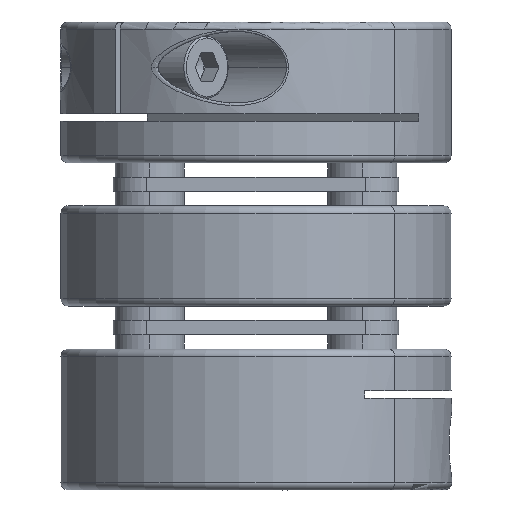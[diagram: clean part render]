
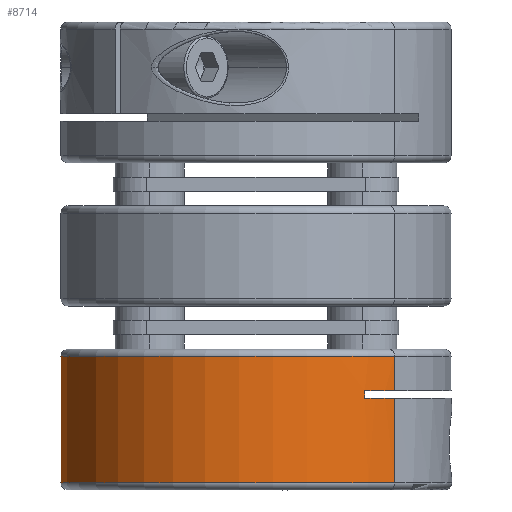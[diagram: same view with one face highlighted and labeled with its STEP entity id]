
A CAD part, left-side view. The second image highlights one B-rep face of the part: STEP entity #8714.
In plain terms, the highlighted cylindrical face has radius 41 mm (diameter 82 mm), a partial arc.
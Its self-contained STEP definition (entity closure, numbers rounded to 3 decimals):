
#4 = EDGE_CURVE ( 'NONE', #3374, #4976, #3274, .T. ) ;
#10 = DIRECTION ( 'NONE',  ( 0., 1., 0. ) ) ;
#148 = AXIS2_PLACEMENT_3D ( 'NONE', #7592, #3594, #5683 ) ;
#582 = DIRECTION ( 'NONE',  ( 0., -1., 0. ) ) ;
#676 = LINE ( 'NONE', #1305, #5792 ) ;
#679 = EDGE_CURVE ( 'NONE', #7154, #8736, #6081, .T. ) ;
#681 = ORIENTED_EDGE ( 'NONE', *, *, #6425, .T. ) ;
#745 = DIRECTION ( 'NONE',  ( 0., 0., 1. ) ) ;
#757 = CARTESIAN_POINT ( 'NONE',  ( 0., 0., -41. ) ) ;
#824 = DIRECTION ( 'NONE',  ( 0., 0., -1. ) ) ;
#962 = CARTESIAN_POINT ( 'NONE',  ( 0., 10.25, -41. ) ) ;
#980 = CIRCLE ( 'NONE', #1403, 41. ) ;
#999 = DIRECTION ( 'NONE',  ( 0., 1., 0. ) ) ;
#1129 = CARTESIAN_POINT ( 'NONE',  ( -8., 10.25, -40.212 ) ) ;
#1143 = VECTOR ( 'NONE', #6669, 1000. ) ;
#1179 = CARTESIAN_POINT ( 'NONE',  ( -8., 0., -40.212 ) ) ;
#1259 = EDGE_CURVE ( 'NONE', #2758, #2655, #8466, .T. ) ;
#1260 = EDGE_CURVE ( 'NONE', #5622, #2655, #2112, .T. ) ;
#1296 = DIRECTION ( 'NONE',  ( 0., -1., 0. ) ) ;
#1305 = CARTESIAN_POINT ( 'NONE',  ( -8., 0., 40.212 ) ) ;
#1306 = VERTEX_POINT ( 'NONE', #3007 ) ;
#1403 = AXIS2_PLACEMENT_3D ( 'NONE', #7501, #4653, #745 ) ;
#1754 = CARTESIAN_POINT ( 'NONE',  ( 0., 28., -41. ) ) ;
#1818 = DIRECTION ( 'NONE',  ( 0., -1., 0. ) ) ;
#1834 = LINE ( 'NONE', #2634, #8104 ) ;
#2009 = CARTESIAN_POINT ( 'NONE',  ( 0., 8.75, -41. ) ) ;
#2024 = AXIS2_PLACEMENT_3D ( 'NONE', #7153, #1818, #7192 ) ;
#2031 = EDGE_CURVE ( 'NONE', #4519, #8028, #980, .T. ) ;
#2085 = DIRECTION ( 'NONE',  ( 0., 0., 1. ) ) ;
#2094 = EDGE_CURVE ( 'NONE', #7553, #1306, #2690, .T. ) ;
#2112 = CIRCLE ( 'NONE', #7499, 41. ) ;
#2218 = CARTESIAN_POINT ( 'NONE',  ( 0., 0., 0. ) ) ;
#2347 = DIRECTION ( 'NONE',  ( 0., 0., 1. ) ) ;
#2495 = ORIENTED_EDGE ( 'NONE', *, *, #4, .F. ) ;
#2541 = VECTOR ( 'NONE', #7049, 1000. ) ;
#2591 = CARTESIAN_POINT ( 'NONE',  ( 0., 8.75, 41. ) ) ;
#2634 = CARTESIAN_POINT ( 'NONE',  ( 0., 0., -41. ) ) ;
#2655 = VERTEX_POINT ( 'NONE', #6329 ) ;
#2690 = CIRCLE ( 'NONE', #3532, 41. ) ;
#2742 = EDGE_CURVE ( 'NONE', #4519, #5622, #676, .T. ) ;
#2758 = VERTEX_POINT ( 'NONE', #5338 ) ;
#2882 = DIRECTION ( 'NONE',  ( 0., -1., 0. ) ) ;
#2923 = CYLINDRICAL_SURFACE ( 'NONE', #3848, 41. ) ;
#3007 = CARTESIAN_POINT ( 'NONE',  ( 0., 1.5, -41. ) ) ;
#3087 = CARTESIAN_POINT ( 'NONE',  ( 0., 10.25, 0. ) ) ;
#3151 = ORIENTED_EDGE ( 'NONE', *, *, #2031, .F. ) ;
#3171 = LINE ( 'NONE', #8590, #1143 ) ;
#3274 = CIRCLE ( 'NONE', #148, 41. ) ;
#3371 = DIRECTION ( 'NONE',  ( 0., 0., -1. ) ) ;
#3374 = VERTEX_POINT ( 'NONE', #2009 ) ;
#3409 = CARTESIAN_POINT ( 'NONE',  ( 0., 10.25, 0. ) ) ;
#3532 = AXIS2_PLACEMENT_3D ( 'NONE', #5459, #6070, #3371 ) ;
#3594 = DIRECTION ( 'NONE',  ( 0., 1., 0. ) ) ;
#3685 = CARTESIAN_POINT ( 'NONE',  ( 0., 1.5, 41. ) ) ;
#3848 = AXIS2_PLACEMENT_3D ( 'NONE', #2218, #2882, #824 ) ;
#3885 = VECTOR ( 'NONE', #6856, 1000. ) ;
#3896 = ORIENTED_EDGE ( 'NONE', *, *, #2742, .T. ) ;
#4044 = EDGE_CURVE ( 'NONE', #8736, #4289, #6727, .T. ) ;
#4289 = VERTEX_POINT ( 'NONE', #1129 ) ;
#4324 = EDGE_CURVE ( 'NONE', #4289, #4976, #8649, .T. ) ;
#4519 = VERTEX_POINT ( 'NONE', #8322 ) ;
#4653 = DIRECTION ( 'NONE',  ( 0., 1., 0. ) ) ;
#4976 = VERTEX_POINT ( 'NONE', #5854 ) ;
#5143 = ORIENTED_EDGE ( 'NONE', *, *, #679, .T. ) ;
#5338 = CARTESIAN_POINT ( 'NONE',  ( 0., 28., 41. ) ) ;
#5459 = CARTESIAN_POINT ( 'NONE',  ( 0., 1.5, 0. ) ) ;
#5465 = ORIENTED_EDGE ( 'NONE', *, *, #4324, .T. ) ;
#5622 = VERTEX_POINT ( 'NONE', #8754 ) ;
#5683 = DIRECTION ( 'NONE',  ( 0., 0., 1. ) ) ;
#5691 = CIRCLE ( 'NONE', #2024, 41. ) ;
#5792 = VECTOR ( 'NONE', #10, 1000. ) ;
#5854 = CARTESIAN_POINT ( 'NONE',  ( -8., 8.75, -40.212 ) ) ;
#5860 = ORIENTED_EDGE ( 'NONE', *, *, #8056, .F. ) ;
#6054 = EDGE_LOOP ( 'NONE', ( #6395, #681, #5143, #6331, #5465, #2495, #6129, #6838, #5860, #3151, #3896, #7035 ) ) ;
#6070 = DIRECTION ( 'NONE',  ( 0., -1., 0. ) ) ;
#6081 = LINE ( 'NONE', #757, #6624 ) ;
#6129 = ORIENTED_EDGE ( 'NONE', *, *, #7958, .T. ) ;
#6329 = CARTESIAN_POINT ( 'NONE',  ( 0., 10.25, 41. ) ) ;
#6331 = ORIENTED_EDGE ( 'NONE', *, *, #4044, .T. ) ;
#6395 = ORIENTED_EDGE ( 'NONE', *, *, #1259, .F. ) ;
#6425 = EDGE_CURVE ( 'NONE', #2758, #7154, #5691, .T. ) ;
#6624 = VECTOR ( 'NONE', #1296, 1000. ) ;
#6669 = DIRECTION ( 'NONE',  ( 0., -1., 0. ) ) ;
#6727 = CIRCLE ( 'NONE', #8148, 41. ) ;
#6838 = ORIENTED_EDGE ( 'NONE', *, *, #2094, .F. ) ;
#6856 = DIRECTION ( 'NONE',  ( 0., -1., 0. ) ) ;
#7035 = ORIENTED_EDGE ( 'NONE', *, *, #1260, .T. ) ;
#7049 = DIRECTION ( 'NONE',  ( 0., -1., 0. ) ) ;
#7153 = CARTESIAN_POINT ( 'NONE',  ( 0., 28., 0. ) ) ;
#7154 = VERTEX_POINT ( 'NONE', #1754 ) ;
#7192 = DIRECTION ( 'NONE',  ( 0., 0., -1. ) ) ;
#7499 = AXIS2_PLACEMENT_3D ( 'NONE', #3087, #999, #2347 ) ;
#7501 = CARTESIAN_POINT ( 'NONE',  ( 0., 8.75, 0. ) ) ;
#7553 = VERTEX_POINT ( 'NONE', #3685 ) ;
#7592 = CARTESIAN_POINT ( 'NONE',  ( 0., 8.75, 0. ) ) ;
#7626 = FACE_OUTER_BOUND ( 'NONE', #6054, .T. ) ;
#7797 = CARTESIAN_POINT ( 'NONE',  ( 0., 0., 41. ) ) ;
#7958 = EDGE_CURVE ( 'NONE', #3374, #1306, #1834, .T. ) ;
#8028 = VERTEX_POINT ( 'NONE', #2591 ) ;
#8056 = EDGE_CURVE ( 'NONE', #8028, #7553, #3171, .T. ) ;
#8104 = VECTOR ( 'NONE', #582, 1000. ) ;
#8148 = AXIS2_PLACEMENT_3D ( 'NONE', #3409, #8168, #2085 ) ;
#8168 = DIRECTION ( 'NONE',  ( 0., 1., 0. ) ) ;
#8322 = CARTESIAN_POINT ( 'NONE',  ( -8., 8.75, 40.212 ) ) ;
#8466 = LINE ( 'NONE', #7797, #2541 ) ;
#8590 = CARTESIAN_POINT ( 'NONE',  ( 0., 0., 41. ) ) ;
#8649 = LINE ( 'NONE', #1179, #3885 ) ;
#8714 = ADVANCED_FACE ( 'NONE', ( #7626 ), #2923, .T. ) ;
#8736 = VERTEX_POINT ( 'NONE', #962 ) ;
#8754 = CARTESIAN_POINT ( 'NONE',  ( -8., 10.25, 40.212 ) ) ;
